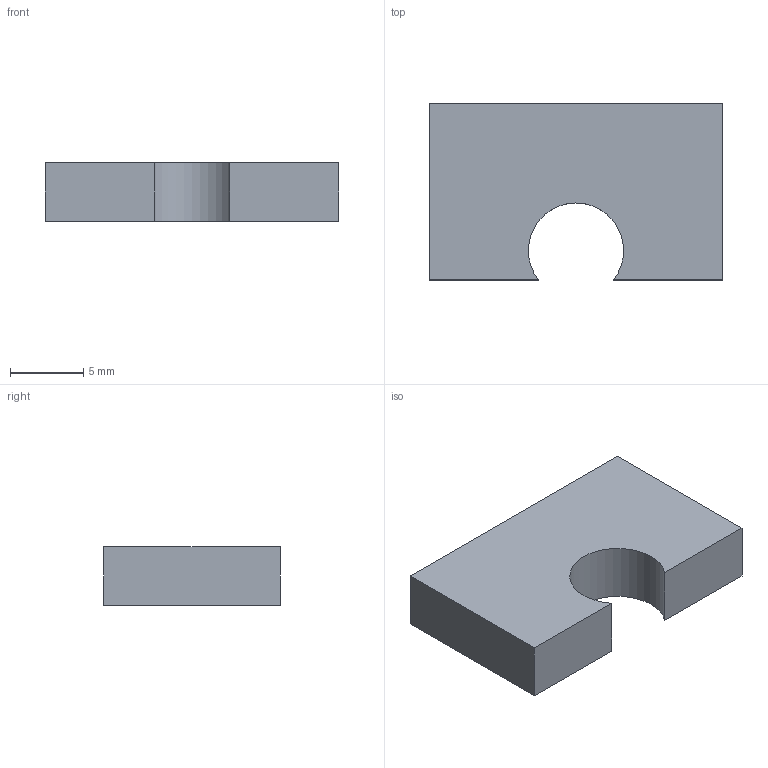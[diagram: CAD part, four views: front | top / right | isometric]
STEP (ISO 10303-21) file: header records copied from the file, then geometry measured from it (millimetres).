
FILE_DESCRIPTION(('Open CASCADE Model'),'2;1');
FILE_NAME('Open CASCADE Shape Model','2026-10-28T05:16:18',('Author'),( 'Open CASCADE'),'Open CASCADE STEP processor 7.8','Open CASCADE 7.8' ,'Unknown');
FILE_SCHEMA(('AUTOMOTIVE_DESIGN { 1 0 10303 214 1 1 1 1 }'));
Length unit declared in the file: millimetre
Products named in the file (1): Open CASCADE STEP translator 7.8 24
Bounding box: 20 x 12 x 4 mm (x, y, z)
Volume: 845.1 mm3; surface area: 716.1 mm2
Topology: 1 solids, 1 shells, 8 faces, 18 edges, 12 vertices
Faces by surface type: plane 7, cylinder 1
Entity records: 467 total; most frequent: CARTESIAN_POINT 85, DIRECTION 69, LINE 46, VECTOR 46, ORIENTED_EDGE 36, PCURVE 36, DEFINITIONAL_REPRESENTATION 36, EDGE_CURVE 18
